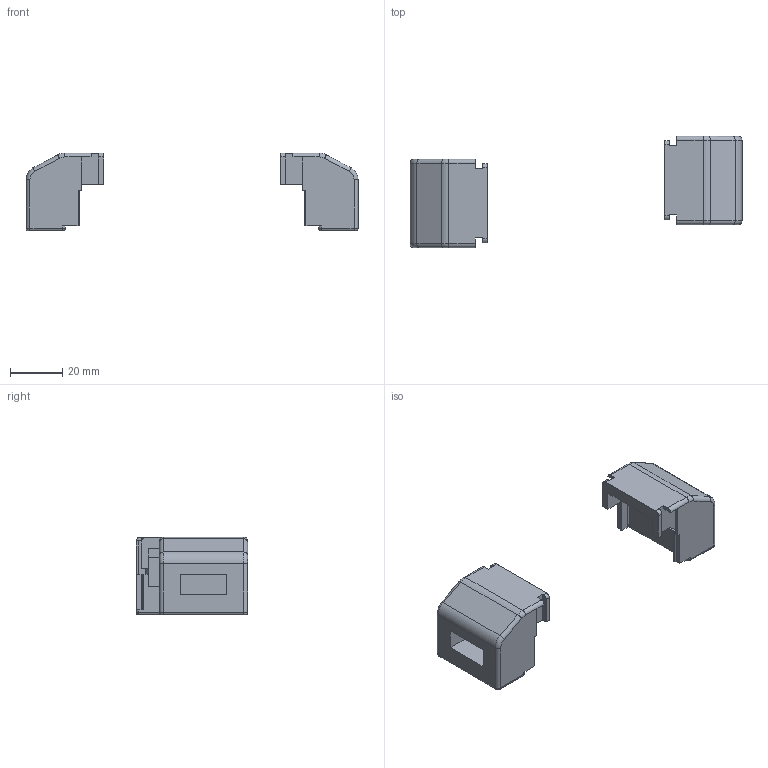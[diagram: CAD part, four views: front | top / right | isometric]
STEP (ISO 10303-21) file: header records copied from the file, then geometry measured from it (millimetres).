
FILE_DESCRIPTION((''),'2;1');
FILE_NAME('DEWI_SR-MINI_DMEC-ASSY_97','2015-12-16T',('emanuel.wild'),(''),'PRO/ENGINEER BY PARAMETRIC TECHNOLOGY CORPORATION, 2015200','PRO/ENGINEER BY PARAMETRIC TECHNOLOGY CORPORATION, 2015200','');
FILE_SCHEMA(('AUTOMOTIVE_DESIGN { 1 0 10303 214 1 1 1 1 }'));
Length unit declared in the file: millimetre
Products named in the file (2): DEWI_SR-MINI_DMEC; DEWI_SR-MINI_DMEC-ASSY_97
Assembly tree (2 placements, depth 2):
  DEWI_SR-MINI_DMEC-ASSY_97
    DEWI_SR-MINI_DMEC  x2
Bounding box: 127 x 42.6 x 29.8 mm (x, y, z)
Volume: 25339.5 mm3; surface area: 13623 mm2
Topology: 2 solids, 2 shells, 202 faces, 528 edges, 332 vertices
Faces by surface type: plane 120, cylinder 58, torus 16, bspline 4, sphere 4
Entity records: 3792 total; most frequent: CARTESIAN_POINT 570, DIRECTION 538, ORIENTED_EDGE 528, EDGE_CURVE 264, VECTOR 196, LINE 196, AXIS2_PLACEMENT_3D 171, VERTEX_POINT 166
